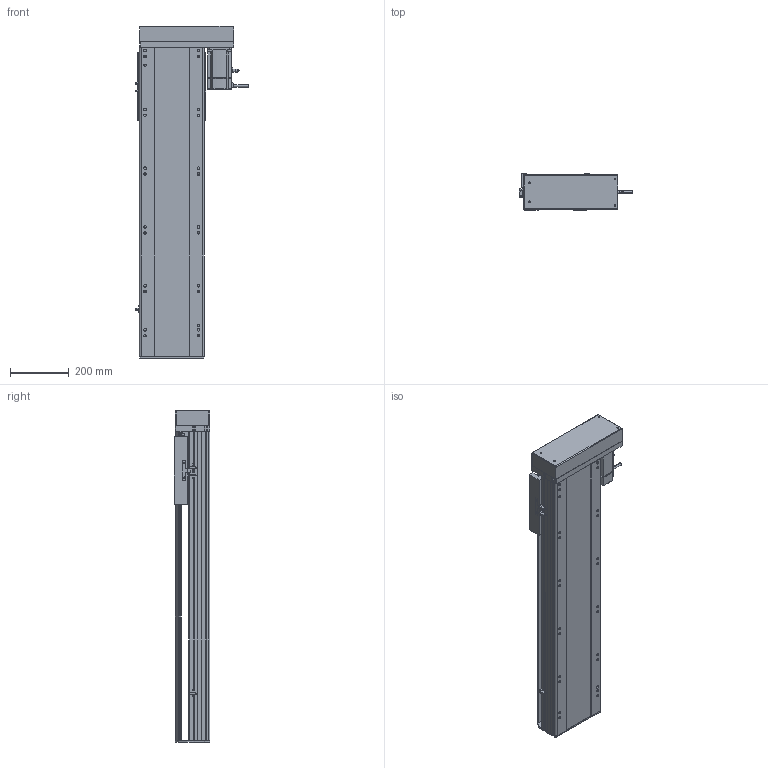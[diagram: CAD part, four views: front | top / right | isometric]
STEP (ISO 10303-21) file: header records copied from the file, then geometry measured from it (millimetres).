
FILE_DESCRIPTION (( 'STEP AP214' ), '1' );
FILE_NAME ('RTH22-XX-750-L-M75-C4.STEP', '2025-10-24T10:58:54', ( 'Microsoft' ), ( 'Microsoft' ), 'SwSTEP 2.0', 'SolidWorks 2018', '' );
FILE_SCHEMA (( 'AUTOMOTIVE_DESIGN' ));
Length unit declared in the file: millimetre
Products named in the file (10): N_RTH22-L-018裔赽^RTH22-XX-XX-L-M75-C4; N_RTH22-L-011菁釱^RTH22-XX-XX-L-M75-C4; N_750W萇儂^RTH22-XX-XX-L-M75-C4; N_RTH22-L-004-SFS25賑釱^RTH22-XX-XX-L-M75-C4; N_RTH22-GY-001耜裔^RTH22-XX-XX-L-M75-C4; N_RTH22-GY-013外置感应片^RTH22-XX-XX-L-M75-C4; N_OMRON EE-SX672 传感器^RTH22-XX-XX-L-M75-C4; N_RTH22-L-008-P75萇儂啣^RTH22-XX-XX-L-M75-C4; RTH22-XX-750-L-M75-C4; N_RTH22-L-007奻裔^RTH22-XX-XX-L-M75-C4
Assembly tree (11 placements, depth 2):
  RTH22-XX-750-L-M75-C4
    N_RTH22-L-011菁釱^RTH22-XX-XX-L-M75-C4
    N_RTH22-GY-001耜裔^RTH22-XX-XX-L-M75-C4
    N_750W萇儂^RTH22-XX-XX-L-M75-C4
    N_RTH22-L-008-P75萇儂啣^RTH22-XX-XX-L-M75-C4
    N_RTH22-L-007奻裔^RTH22-XX-XX-L-M75-C4
    N_RTH22-L-018裔赽^RTH22-XX-XX-L-M75-C4
    N_OMRON EE-SX672 传感器^RTH22-XX-XX-L-M75-C4  x3
    N_RTH22-GY-013外置感应片^RTH22-XX-XX-L-M75-C4
    N_RTH22-L-004-SFS25賑釱^RTH22-XX-XX-L-M75-C4
Bounding box: 384.7 x 122 x 1129.7 mm (x, y, z)
Volume: 15980117.6 mm3; surface area: 1824924.6 mm2
Topology: 11 solids, 11 shells, 1588 faces, 4329 edges, 2791 vertices
Faces by surface type: plane 793, cylinder 458, bspline 279, cone 58
Entity records: 39677 total; most frequent: CARTESIAN_POINT 12114, ORIENTED_EDGE 5634, DIRECTION 5307, EDGE_CURVE 2817, VERTEX_POINT 1827, AXIS2_PLACEMENT_3D 1780, VECTOR 1747, LINE 1747
